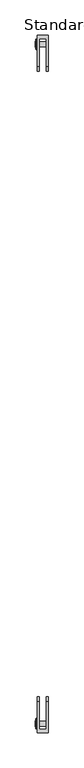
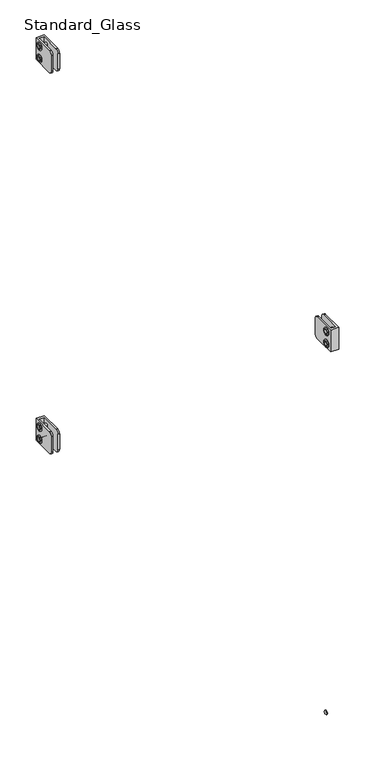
"""IFC4 building model written with IfcOpenShell, lengths in millimetres: railing geometry, Baluster-Excess-Fill-Straight-Panel-VIVA : Standard_Glass."""

from ifc_helpers import new_model, si_unit, point, frame, origin, place, context, project, spatial, polyline, circle_curve, ellipse_curve, trimmed, outline, extrude, source, transform, mapped, element, save
from ifc_brep_helpers import plane_surface, cylinder_surface, revolved_surface, advanced_brep


def standard_glass_e476765a(model_context):
    return source(origin(), model_context, "Body", "SolidModel", [
        extrude(outline(polyline([(17.3185433, 917.178125), (15.2715791, 913.6326791), (11.1776508, 913.6326791), (9.1306867, 917.178125), (11.1776508, 920.7235709), (15.2715791, 920.7235709), (17.3185433, 917.178125)])), frame((21.7024185, 0.0, 0.0), z_axis=(1.0, 0.0, 0.0), x_axis=(0.0, 1.0, 0.0)), (0.0, 0.0, 1.0), 1.4969696),
        advanced_brep(
        [(36.7665, 16.7700609, 917.178125), (36.7665, 9.6791691, 917.178125), (24.0665, 9.6791691, 917.178125), (24.0665, 16.7700609, 917.178125), (24.0665, 5.8168259, 917.178125), (24.0665, 20.6324041, 917.178125), (23.199388, 14.8806904, 917.178125), (23.199388, 11.5685396, 917.178125), (36.7665, 11.5685396, 917.178125), (36.7665, 14.8806904, 917.178125), (23.2316551, 20.6324041, 917.178125), (23.2316551, 5.8168259, 917.178125), (21.9503831, 7.0980979, 917.178125), (21.9503831, 19.351132, 917.178125), (21.9503831, 8.9260194, 917.178125), (21.9503831, 17.5232105, 917.178125), (23.199388, 8.9260194, 917.178125), (23.199388, 17.5232105, 917.178125)],
        [
            (0, 1, circle_curve(frame((36.7665, 13.224615, 917.178125), z_axis=(-1.0, 0.0, 0.0), x_axis=(0.0, -1.0, 0.0)), 3.5454459)),
            (1, 2),
            (2, 3, circle_curve(frame((24.0665, 13.224615, 917.178125), z_axis=(1.0, 0.0, 0.0), x_axis=(0.0, -1.0, 0.0)), 3.5454459)),
            (3, 0),
            (1, 0, circle_curve(frame((36.7665, 13.224615, 917.178125), z_axis=(-1.0, 0.0, 0.0), x_axis=(0.0, -1.0, 0.0)), 3.5454459)),
            (3, 2, circle_curve(frame((24.0665, 13.224615, 917.178125), z_axis=(1.0, 0.0, 0.0), x_axis=(0.0, -1.0, 0.0)), 3.5454459)),
            (2, 4),
            (4, 5, circle_curve(frame((24.0665, 13.224615, 917.178125), z_axis=(1.0, 0.0, 0.0), x_axis=(0.0, -1.0, 0.0)), 7.4077891)),
            (5, 3),
            (5, 4, circle_curve(frame((24.0665, 13.224615, 917.178125), z_axis=(1.0, 0.0, 0.0), x_axis=(0.0, -1.0, 0.0)), 7.4077891)),
            (6, 7, circle_curve(frame((23.199388, 13.224615, 917.178125), z_axis=(-1.0, 0.0, 0.0), x_axis=(0.0, -1.0, 0.0)), 1.6560754)),
            (7, 8),
            (8, 9, circle_curve(frame((36.7665, 13.224615, 917.178125), z_axis=(1.0, 0.0, 0.0), x_axis=(0.0, -1.0, 0.0)), 1.6560754)),
            (9, 6),
            (7, 6, circle_curve(frame((23.199388, 13.224615, 917.178125), z_axis=(-1.0, 0.0, 0.0), x_axis=(0.0, -1.0, 0.0)), 1.6560754)),
            (9, 8, circle_curve(frame((36.7665, 13.224615, 917.178125), z_axis=(1.0, 0.0, 0.0), x_axis=(0.0, -1.0, 0.0)), 1.6560754)),
            (10, 11, circle_curve(frame((23.2316551, 13.224615, 917.178125), z_axis=(-1.0, 0.0, 0.0), x_axis=(0.0, -1.0, 0.0)), 7.4077891)),
            (11, 12, circle_curve(frame((23.2316551, 7.0980979, 917.178125), z_axis=(0.0, 0.0, -1.0), x_axis=(0.0, -1.0, 0.0)), 1.281272)),
            (12, 13, circle_curve(frame((21.9503831, 13.224615, 917.178125), z_axis=(1.0, 0.0, 0.0), x_axis=(0.0, -1.0, 0.0)), 6.1265171)),
            (13, 10, circle_curve(frame((23.2316551, 19.351132, 917.178125), z_axis=(0.0, 0.0, -1.0), x_axis=(0.0, 1.0, 0.0)), 1.281272)),
            (11, 10, circle_curve(frame((23.2316551, 13.224615, 917.178125), z_axis=(-1.0, 0.0, 0.0), x_axis=(0.0, -1.0, 0.0)), 7.4077891)),
            (13, 12, circle_curve(frame((21.9503831, 13.224615, 917.178125), z_axis=(1.0, 0.0, 0.0), x_axis=(0.0, -1.0, 0.0)), 6.1265171)),
            (12, 14),
            (14, 15, circle_curve(frame((21.9503831, 13.224615, 917.178125), z_axis=(1.0, 0.0, 0.0), x_axis=(0.0, -1.0, 0.0)), 4.2985955)),
            (15, 13),
            (15, 14, circle_curve(frame((21.9503831, 13.224615, 917.178125), z_axis=(1.0, 0.0, 0.0), x_axis=(0.0, -1.0, 0.0)), 4.2985955)),
            (4, 11),
            (10, 5),
            (8, 1),
            (0, 9),
            (14, 16),
            (16, 17, circle_curve(frame((23.199388, 13.224615, 917.178125), z_axis=(1.0, 0.0, 0.0), x_axis=(0.0, -1.0, 0.0)), 4.2985955)),
            (17, 15),
            (17, 16, circle_curve(frame((23.199388, 13.224615, 917.178125), z_axis=(1.0, 0.0, 0.0), x_axis=(0.0, -1.0, 0.0)), 4.2985955)),
            (16, 7),
            (6, 17),
        ],
        [
            cylinder_surface(frame((27.5632331, 13.224615, 917.178125), z_axis=(1.0, 0.0, 0.0), x_axis=(0.0, -1.0, 0.0)), 3.5454459),
            plane_surface(frame((24.0665, 13.224615, 917.178125), z_axis=(1.0, 0.0, 0.0), x_axis=(0.0, -1.0, 0.0))),
            revolved_surface(polyline([(36.7665, 11.5685396, 917.178125), (23.199388, 11.5685396, 917.178125)]), (27.5632331, 13.224615, 917.178125), (1.0, 0.0, 0.0)),
            revolved_surface(trimmed(ellipse_curve(frame((23.2316551, 7.0980979, 917.178125), z_axis=(0.0, 0.0, 1.0), x_axis=(0.0, -1.0, 0.0)), 1.281272, 1.281272), [point((21.9503831, 7.0980979, 917.178125))], [point((23.2316551, 5.8168259, 917.178125))], True, "CARTESIAN"), (27.5632331, 13.224615, 917.178125), (1.0, 0.0, 0.0)),
            plane_surface(frame((21.9503831, 13.224615, 917.178125), z_axis=(-1.0, 0.0, 0.0), x_axis=(0.0, -1.0, 0.0))),
            cylinder_surface(frame((27.5632331, 13.224615, 917.178125), z_axis=(1.0, 0.0, 0.0), x_axis=(0.0, -1.0, 0.0)), 7.4077891),
            plane_surface(frame((36.7665, 13.224615, 917.178125), z_axis=(1.0, 0.0, 0.0), x_axis=(0.0, -1.0, 0.0))),
            revolved_surface(polyline([(23.199388, 8.926019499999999, 917.178125), (21.9503831, 8.926019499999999, 917.178125)]), (27.5632331, 13.224615, 917.178125), (1.0, 0.0, 0.0)),
            plane_surface(frame((23.199388, 13.224615, 917.178125), z_axis=(-1.0, 0.0, 0.0), x_axis=(0.0, -1.0, 0.0))),
        ],
        [
            (0, [[1, 2, 3, 4]]),
            (0, [[5, -4, 6, -2]]),
            (1, [[-3, 7, 8, 9]]),
            (1, [[-6, -9, 10, -7]]),
            (2, [[11, 12, 13, 14]]),
            (2, [[15, -14, 16, -12]]),
            (3, [[17, 18, 19, 20]]),
            (3, [[21, -20, 22, -18]]),
            (4, [[-19, 23, 24, 25]]),
            (4, [[-22, -25, 26, -23]]),
            (5, [[-8, 27, -17, 28]]),
            (5, [[-10, -28, -21, -27]]),
            (6, [[-13, 29, -1, 30]]),
            (6, [[-16, -30, -5, -29]]),
            (7, [[-24, 31, 32, 33]]),
            (7, [[-26, -33, 34, -31]]),
            (8, [[-32, 35, -11, 36]]),
            (8, [[-34, -36, -15, -35]]),
        ],
    ),
        advanced_brep(
        [(36.7665, 16.7700609, 892.571875), (36.7665, 9.6791691, 892.571875), (24.0665, 9.6791691, 892.571875), (24.0665, 16.7700609, 892.571875), (24.0665, 5.8168259, 892.571875), (24.0665, 20.6324041, 892.571875), (23.199388, 14.8806904, 892.571875), (23.199388, 11.5685396, 892.571875), (36.7665, 11.5685396, 892.571875), (36.7665, 14.8806904, 892.571875), (23.2316551, 20.6324041, 892.571875), (23.2316551, 5.8168259, 892.571875), (21.9503831, 7.0980979, 892.571875), (21.9503831, 19.351132, 892.571875), (21.9503831, 8.9260194, 892.571875), (21.9503831, 17.5232105, 892.571875), (23.199388, 8.9260194, 892.571875), (23.199388, 17.5232105, 892.571875)],
        [
            (0, 1, circle_curve(frame((36.7665, 13.224615, 892.571875), z_axis=(-1.0, 0.0, 0.0), x_axis=(0.0, -1.0, 0.0)), 3.5454459)),
            (1, 2),
            (2, 3, circle_curve(frame((24.0665, 13.224615, 892.571875), z_axis=(1.0, 0.0, 0.0), x_axis=(0.0, -1.0, 0.0)), 3.5454459)),
            (3, 0),
            (1, 0, circle_curve(frame((36.7665, 13.224615, 892.571875), z_axis=(-1.0, 0.0, 0.0), x_axis=(0.0, -1.0, 0.0)), 3.5454459)),
            (3, 2, circle_curve(frame((24.0665, 13.224615, 892.571875), z_axis=(1.0, 0.0, 0.0), x_axis=(0.0, -1.0, 0.0)), 3.5454459)),
            (2, 4),
            (4, 5, circle_curve(frame((24.0665, 13.224615, 892.571875), z_axis=(1.0, 0.0, 0.0), x_axis=(0.0, -1.0, 0.0)), 7.4077891)),
            (5, 3),
            (5, 4, circle_curve(frame((24.0665, 13.224615, 892.571875), z_axis=(1.0, 0.0, 0.0), x_axis=(0.0, -1.0, 0.0)), 7.4077891)),
            (6, 7, circle_curve(frame((23.199388, 13.224615, 892.571875), z_axis=(-1.0, 0.0, 0.0), x_axis=(0.0, -1.0, 0.0)), 1.6560754)),
            (7, 8),
            (8, 9, circle_curve(frame((36.7665, 13.224615, 892.571875), z_axis=(1.0, 0.0, 0.0), x_axis=(0.0, -1.0, 0.0)), 1.6560754)),
            (9, 6),
            (7, 6, circle_curve(frame((23.199388, 13.224615, 892.571875), z_axis=(-1.0, 0.0, 0.0), x_axis=(0.0, -1.0, 0.0)), 1.6560754)),
            (9, 8, circle_curve(frame((36.7665, 13.224615, 892.571875), z_axis=(1.0, 0.0, 0.0), x_axis=(0.0, -1.0, 0.0)), 1.6560754)),
            (10, 11, circle_curve(frame((23.2316551, 13.224615, 892.571875), z_axis=(-1.0, 0.0, 0.0), x_axis=(0.0, -1.0, 0.0)), 7.4077891)),
            (11, 12, circle_curve(frame((23.2316551, 7.0980979, 892.571875), z_axis=(0.0, 0.0, -1.0), x_axis=(0.0, -1.0, 0.0)), 1.281272)),
            (12, 13, circle_curve(frame((21.9503831, 13.224615, 892.571875), z_axis=(1.0, 0.0, 0.0), x_axis=(0.0, -1.0, 0.0)), 6.1265171)),
            (13, 10, circle_curve(frame((23.2316551, 19.351132, 892.571875), z_axis=(0.0, 0.0, -1.0), x_axis=(0.0, 1.0, 0.0)), 1.281272)),
            (11, 10, circle_curve(frame((23.2316551, 13.224615, 892.571875), z_axis=(-1.0, 0.0, 0.0), x_axis=(0.0, -1.0, 0.0)), 7.4077891)),
            (13, 12, circle_curve(frame((21.9503831, 13.224615, 892.571875), z_axis=(1.0, 0.0, 0.0), x_axis=(0.0, -1.0, 0.0)), 6.1265171)),
            (12, 14),
            (14, 15, circle_curve(frame((21.9503831, 13.224615, 892.571875), z_axis=(1.0, 0.0, 0.0), x_axis=(0.0, -1.0, 0.0)), 4.2985955)),
            (15, 13),
            (15, 14, circle_curve(frame((21.9503831, 13.224615, 892.571875), z_axis=(1.0, 0.0, 0.0), x_axis=(0.0, -1.0, 0.0)), 4.2985955)),
            (8, 1),
            (0, 9),
            (4, 11),
            (10, 5),
            (14, 16),
            (16, 17, circle_curve(frame((23.199388, 13.224615, 892.571875), z_axis=(1.0, 0.0, 0.0), x_axis=(0.0, -1.0, 0.0)), 4.2985955)),
            (17, 15),
            (17, 16, circle_curve(frame((23.199388, 13.224615, 892.571875), z_axis=(1.0, 0.0, 0.0), x_axis=(0.0, -1.0, 0.0)), 4.2985955)),
            (16, 7),
            (6, 17),
        ],
        [
            cylinder_surface(frame((27.5632331, 13.224615, 892.571875), z_axis=(1.0, 0.0, 0.0), x_axis=(0.0, -1.0, 0.0)), 3.5454459),
            plane_surface(frame((24.0665, 13.224615, 892.571875), z_axis=(1.0, 0.0, 0.0), x_axis=(0.0, -1.0, 0.0))),
            revolved_surface(polyline([(36.7665, 11.5685396, 892.571875), (23.199388, 11.5685396, 892.571875)]), (27.5632331, 13.224615, 892.571875), (1.0, 0.0, 0.0)),
            revolved_surface(trimmed(ellipse_curve(frame((23.2316551, 7.0980979, 892.571875), z_axis=(0.0, 0.0, 1.0), x_axis=(0.0, -1.0, 0.0)), 1.281272, 1.281272), [point((21.9503831, 7.0980979, 892.571875))], [point((23.2316551, 5.8168259, 892.571875))], True, "CARTESIAN"), (27.5632331, 13.224615, 892.571875), (1.0, 0.0, 0.0)),
            plane_surface(frame((21.9503831, 13.224615, 892.571875), z_axis=(-1.0, 0.0, 0.0), x_axis=(0.0, -1.0, 0.0))),
            plane_surface(frame((36.7665, 13.224615, 892.571875), z_axis=(1.0, 0.0, 0.0), x_axis=(0.0, -1.0, 0.0))),
            cylinder_surface(frame((27.5632331, 13.224615, 892.571875), z_axis=(1.0, 0.0, 0.0), x_axis=(0.0, -1.0, 0.0)), 7.4077891),
            revolved_surface(polyline([(23.199388, 8.926019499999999, 892.571875), (21.9503831, 8.926019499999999, 892.571875)]), (27.5632331, 13.224615, 892.571875), (1.0, 0.0, 0.0)),
            plane_surface(frame((23.199388, 13.224615, 892.571875), z_axis=(-1.0, 0.0, 0.0), x_axis=(0.0, -1.0, 0.0))),
        ],
        [
            (0, [[1, 2, 3, 4]]),
            (0, [[5, -4, 6, -2]]),
            (1, [[-3, 7, 8, 9]]),
            (1, [[-6, -9, 10, -7]]),
            (2, [[11, 12, 13, 14]]),
            (2, [[15, -14, 16, -12]]),
            (3, [[17, 18, 19, 20]]),
            (3, [[21, -20, 22, -18]]),
            (4, [[-19, 23, 24, 25]]),
            (4, [[-22, -25, 26, -23]]),
            (5, [[-13, 27, -1, 28]]),
            (5, [[-16, -28, -5, -27]]),
            (6, [[-8, 29, -17, 30]]),
            (6, [[-10, -30, -21, -29]]),
            (7, [[-24, 31, 32, 33]]),
            (7, [[-26, -33, 34, -31]]),
            (8, [[-32, 35, -11, 36]]),
            (8, [[-34, -36, -15, -35]]),
        ],
    ),
        extrude(outline(polyline([(17.3185433, 892.571875), (15.2715791, 889.0264291), (11.1776508, 889.0264291), (9.1306867, 892.571875), (11.1776508, 896.1173209), (15.2715791, 896.1173209), (17.3185433, 892.571875)])), frame((21.7024185, 0.0, 0.0), z_axis=(1.0, 0.0, 0.0), x_axis=(0.0, 1.0, 0.0)), (0.0, 0.0, 1.0), 1.4969696),
        advanced_brep(
        [(24.0665, 25.8579597, 927.1), (24.0665, 25.8579597, 882.65), (24.0665, -18.5920403, 882.65), (24.0665, -24.9420403, 889.0), (24.0665, -24.9420403, 920.75), (24.0665, -18.5920403, 927.1), (39.9415, 25.8579597, 927.1), (39.9415, -18.5920403, 927.1), (39.9415, -24.9420403, 920.75), (39.9415, -24.9420403, 889.0), (39.9415, -18.5920403, 882.65), (39.9415, 25.8579597, 882.65), (36.7665, -18.5920403, 882.65), (36.7665, 21.1398793, 882.65), (27.2415, 21.1398793, 882.65), (27.2415, -18.5920403, 882.65), (36.7665, 21.1398793, 927.1), (27.2415, 21.1398793, 927.1), (27.2415, -18.5920403, 927.1), (27.2415, -24.9420403, 920.75), (27.2415, -24.9420403, 889.0), (36.7665, -24.9420403, 889.0), (36.7665, -24.9420403, 920.75), (36.7665, -18.5920403, 927.1)],
        [
            (0, 1),
            (1, 2),
            (2, 3, circle_curve(frame((24.0665, -18.5920403, 889.0), z_axis=(-1.0, 0.0, 0.0), x_axis=(0.0, -1.0, 0.0)), 6.35)),
            (3, 4),
            (4, 5, circle_curve(frame((24.0665, -18.5920403, 920.75), z_axis=(-1.0, 0.0, 0.0), x_axis=(0.0, -1.0, 0.0)), 6.35)),
            (5, 0),
            (6, 7),
            (7, 8, circle_curve(frame((39.9415, -18.5920403, 920.75), z_axis=(1.0, 0.0, 0.0), x_axis=(0.0, -1.0, 0.0)), 6.35)),
            (8, 9),
            (9, 10, circle_curve(frame((39.9415, -18.5920403, 889.0), z_axis=(1.0, 0.0, 0.0), x_axis=(0.0, -1.0, 0.0)), 6.35)),
            (10, 11),
            (11, 6),
            (0, 6),
            (11, 1),
            (10, 12),
            (12, 13),
            (13, 14),
            (14, 15),
            (15, 2),
            (13, 16),
            (16, 17),
            (17, 14),
            (17, 18),
            (18, 19, circle_curve(frame((27.2415, -18.5920403, 920.75), z_axis=(1.0, 0.0, 0.0), x_axis=(0.0, -1.0, 0.0)), 6.35)),
            (19, 20),
            (20, 15, circle_curve(frame((27.2415, -18.5920403, 889.0), z_axis=(1.0, 0.0, 0.0), x_axis=(0.0, -1.0, 0.0)), 6.35)),
            (12, 21, circle_curve(frame((36.7665, -18.5920403, 889.0), z_axis=(-1.0, 0.0, 0.0), x_axis=(0.0, -1.0, 0.0)), 6.35)),
            (21, 22),
            (22, 23, circle_curve(frame((36.7665, -18.5920403, 920.75), z_axis=(-1.0, 0.0, 0.0), x_axis=(0.0, -1.0, 0.0)), 6.35)),
            (23, 16),
            (20, 3),
            (9, 21),
            (19, 4),
            (8, 22),
            (18, 5),
            (7, 23),
        ],
        [
            plane_surface(frame((24.0665, 25.8579597, 882.65), z_axis=(-1.0, 0.0, 0.0), x_axis=(0.0, 0.0, -1.0))),
            plane_surface(frame((39.9415, 25.8579597, 882.65), z_axis=(1.0, 0.0, 0.0), x_axis=(0.0, 0.0, 1.0))),
            plane_surface(frame((24.0665, 25.8579597, 927.1), z_axis=(0.0, 1.0, 0.0), x_axis=(1.0, 0.0, 0.0))),
            plane_surface(frame((24.0665, 25.8579597, 882.65), z_axis=(0.0, 0.0, -1.0), x_axis=(1.0, 0.0, 0.0))),
            plane_surface(frame((36.7665, 21.1398793, 939.8), z_axis=(0.0, -1.0, 0.0), x_axis=(0.0, 0.0, -1.0))),
            plane_surface(frame((27.2415, 21.1398793, 939.8), z_axis=(1.0, 0.0, 0.0), x_axis=(0.0, 0.0, -1.0))),
            plane_surface(frame((36.7665, -37.6420403, 939.8), z_axis=(-1.0, 0.0, 0.0), x_axis=(0.0, 0.0, -1.0))),
            cylinder_surface(frame((39.9415, -18.5920403, 889.0), z_axis=(-1.0, 0.0, 0.0), x_axis=(0.0, -1.0, 0.0)), 6.35),
            plane_surface(frame((24.0665, -24.9420403, 889.0), z_axis=(0.0, -1.0, 0.0), x_axis=(1.0, 0.0, 0.0))),
            cylinder_surface(frame((39.9415, -18.5920403, 920.75), z_axis=(-1.0, 0.0, 0.0), x_axis=(0.0, -1.0, 0.0)), 6.35),
            plane_surface(frame((24.0665, -18.5920403, 927.1), z_axis=(0.0, 0.0, 1.0), x_axis=(1.0, 0.0, 0.0))),
        ],
        [
            (0, [[1, 2, 3, 4, 5, 6]]),
            (1, [[7, 8, 9, 10, 11, 12]]),
            (2, [[-1, 13, -12, 14]]),
            (3, [[-2, -14, -11, 15, 16, 17, 18, 19]]),
            (4, [[20, 21, 22, -17]]),
            (5, [[-22, 23, 24, 25, 26, -18]]),
            (6, [[-20, -16, 27, 28, 29, 30]]),
            (7, [[-3, -19, -26, 31]]),
            (7, [[-10, 32, -27, -15]]),
            (8, [[-4, -31, -25, 33]]),
            (8, [[-9, 34, -28, -32]]),
            (9, [[-5, -33, -24, 35]]),
            (9, [[-8, 36, -29, -34]]),
            (10, [[-6, -35, -23, -21, -30, -36, -7, -13]]),
        ],
    ),
        extrude(outline(polyline([(17.3185433, 138.7358896), (15.2715791, 135.1904437), (11.1776508, 135.1904437), (9.1306867, 138.7358896), (11.1776508, 142.2813355), (15.2715791, 142.2813355), (17.3185433, 138.7358896)])), frame((21.7024185, 0.0, 0.0), z_axis=(1.0, 0.0, 0.0), x_axis=(0.0, 1.0, 0.0)), (0.0, 0.0, 1.0), 1.4969696),
        advanced_brep(
        [(36.7665, 16.7700609, 138.7358896), (36.7665, 9.6791691, 138.7358896), (24.0665, 9.6791691, 138.7358896), (24.0665, 16.7700609, 138.7358896), (24.0665, 5.8168259, 138.7358896), (24.0665, 20.6324041, 138.7358896), (23.199388, 14.8806904, 138.7358896), (23.199388, 11.5685396, 138.7358896), (36.7665, 11.5685396, 138.7358896), (36.7665, 14.8806904, 138.7358896), (23.2316551, 20.6324041, 138.7358896), (23.2316551, 5.8168259, 138.7358896), (21.9503831, 7.0980979, 138.7358896), (21.9503831, 19.351132, 138.7358896), (21.9503831, 8.9260194, 138.7358896), (21.9503831, 17.5232105, 138.7358896), (23.199388, 8.9260194, 138.7358896), (23.199388, 17.5232105, 138.7358896)],
        [
            (0, 1, circle_curve(frame((36.7665, 13.224615, 138.7358896), z_axis=(-1.0, 0.0, 0.0), x_axis=(0.0, -1.0, 0.0)), 3.5454459)),
            (1, 2),
            (2, 3, circle_curve(frame((24.0665, 13.224615, 138.7358896), z_axis=(1.0, 0.0, 0.0), x_axis=(0.0, -1.0, 0.0)), 3.5454459)),
            (3, 0),
            (1, 0, circle_curve(frame((36.7665, 13.224615, 138.7358896), z_axis=(-1.0, 0.0, 0.0), x_axis=(0.0, -1.0, 0.0)), 3.5454459)),
            (3, 2, circle_curve(frame((24.0665, 13.224615, 138.7358896), z_axis=(1.0, 0.0, 0.0), x_axis=(0.0, -1.0, 0.0)), 3.5454459)),
            (2, 4),
            (4, 5, circle_curve(frame((24.0665, 13.224615, 138.7358896), z_axis=(1.0, 0.0, 0.0), x_axis=(0.0, -1.0, 0.0)), 7.4077891)),
            (5, 3),
            (5, 4, circle_curve(frame((24.0665, 13.224615, 138.7358896), z_axis=(1.0, 0.0, 0.0), x_axis=(0.0, -1.0, 0.0)), 7.4077891)),
            (6, 7, circle_curve(frame((23.199388, 13.224615, 138.7358896), z_axis=(-1.0, 0.0, 0.0), x_axis=(0.0, -1.0, 0.0)), 1.6560754)),
            (7, 8),
            (8, 9, circle_curve(frame((36.7665, 13.224615, 138.7358896), z_axis=(1.0, 0.0, 0.0), x_axis=(0.0, -1.0, 0.0)), 1.6560754)),
            (9, 6),
            (7, 6, circle_curve(frame((23.199388, 13.224615, 138.7358896), z_axis=(-1.0, 0.0, 0.0), x_axis=(0.0, -1.0, 0.0)), 1.6560754)),
            (9, 8, circle_curve(frame((36.7665, 13.224615, 138.7358896), z_axis=(1.0, 0.0, 0.0), x_axis=(0.0, -1.0, 0.0)), 1.6560754)),
            (10, 11, circle_curve(frame((23.2316551, 13.224615, 138.7358896), z_axis=(-1.0, 0.0, 0.0), x_axis=(0.0, -1.0, 0.0)), 7.4077891)),
            (11, 12, circle_curve(frame((23.2316551, 7.0980979, 138.7358896), z_axis=(0.0, 0.0, -1.0), x_axis=(0.0, -1.0, 0.0)), 1.281272)),
            (12, 13, circle_curve(frame((21.9503831, 13.224615, 138.7358896), z_axis=(1.0, 0.0, 0.0), x_axis=(0.0, -1.0, 0.0)), 6.1265171)),
            (13, 10, circle_curve(frame((23.2316551, 19.351132, 138.7358896), z_axis=(0.0, 0.0, -1.0), x_axis=(0.0, 1.0, 0.0)), 1.281272)),
            (11, 10, circle_curve(frame((23.2316551, 13.224615, 138.7358896), z_axis=(-1.0, 0.0, 0.0), x_axis=(0.0, -1.0, 0.0)), 7.4077891)),
            (13, 12, circle_curve(frame((21.9503831, 13.224615, 138.7358896), z_axis=(1.0, 0.0, 0.0), x_axis=(0.0, -1.0, 0.0)), 6.1265171)),
            (12, 14),
            (14, 15, circle_curve(frame((21.9503831, 13.224615, 138.7358896), z_axis=(1.0, 0.0, 0.0), x_axis=(0.0, -1.0, 0.0)), 4.2985955)),
            (15, 13),
            (15, 14, circle_curve(frame((21.9503831, 13.224615, 138.7358896), z_axis=(1.0, 0.0, 0.0), x_axis=(0.0, -1.0, 0.0)), 4.2985955)),
            (4, 11),
            (10, 5),
            (8, 1),
            (0, 9),
            (14, 16),
            (16, 17, circle_curve(frame((23.199388, 13.224615, 138.7358896), z_axis=(1.0, 0.0, 0.0), x_axis=(0.0, -1.0, 0.0)), 4.2985955)),
            (17, 15),
            (17, 16, circle_curve(frame((23.199388, 13.224615, 138.7358896), z_axis=(1.0, 0.0, 0.0), x_axis=(0.0, -1.0, 0.0)), 4.2985955)),
            (16, 7),
            (6, 17),
        ],
        [
            cylinder_surface(frame((27.5632331, 13.224615, 138.7358896), z_axis=(1.0, 0.0, 0.0), x_axis=(0.0, -1.0, 0.0)), 3.5454459),
            plane_surface(frame((24.0665, 13.224615, 138.7358896), z_axis=(1.0, 0.0, 0.0), x_axis=(0.0, -1.0, 0.0))),
            revolved_surface(polyline([(36.7665, 11.5685396, 138.7358896), (23.199388, 11.5685396, 138.7358896)]), (27.5632331, 13.224615, 138.7358896), (1.0, 0.0, 0.0)),
            revolved_surface(trimmed(ellipse_curve(frame((23.2316551, 7.0980979, 138.7358896), z_axis=(0.0, 0.0, 1.0), x_axis=(0.0, -1.0, 0.0)), 1.281272, 1.281272), [point((21.9503831, 7.0980979, 138.7358896))], [point((23.2316551, 5.8168259, 138.7358896))], True, "CARTESIAN"), (27.5632331, 13.224615, 138.7358896), (1.0, 0.0, 0.0)),
            plane_surface(frame((21.9503831, 13.224615, 138.7358896), z_axis=(-1.0, 0.0, 0.0), x_axis=(0.0, -1.0, 0.0))),
            cylinder_surface(frame((27.5632331, 13.224615, 138.7358896), z_axis=(1.0, 0.0, 0.0), x_axis=(0.0, -1.0, 0.0)), 7.4077891),
            plane_surface(frame((36.7665, 13.224615, 138.7358896), z_axis=(1.0, 0.0, 0.0), x_axis=(0.0, -1.0, 0.0))),
            revolved_surface(polyline([(23.199388, 8.926019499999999, 138.7358896), (21.9503831, 8.926019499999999, 138.7358896)]), (27.5632331, 13.224615, 138.7358896), (1.0, 0.0, 0.0)),
            plane_surface(frame((23.199388, 13.224615, 138.7358896), z_axis=(-1.0, 0.0, 0.0), x_axis=(0.0, -1.0, 0.0))),
        ],
        [
            (0, [[1, 2, 3, 4]]),
            (0, [[5, -4, 6, -2]]),
            (1, [[-3, 7, 8, 9]]),
            (1, [[-6, -9, 10, -7]]),
            (2, [[11, 12, 13, 14]]),
            (2, [[15, -14, 16, -12]]),
            (3, [[17, 18, 19, 20]]),
            (3, [[21, -20, 22, -18]]),
            (4, [[-19, 23, 24, 25]]),
            (4, [[-22, -25, 26, -23]]),
            (5, [[-8, 27, -17, 28]]),
            (5, [[-10, -28, -21, -27]]),
            (6, [[-13, 29, -1, 30]]),
            (6, [[-16, -30, -5, -29]]),
            (7, [[-24, 31, 32, 33]]),
            (7, [[-26, -33, 34, -31]]),
            (8, [[-32, 35, -11, 36]]),
            (8, [[-34, -36, -15, -35]]),
        ],
    ),
        advanced_brep(
        [(36.7665, 16.7700609, 114.1296396), (36.7665, 9.6791691, 114.1296396), (24.0665, 9.6791691, 114.1296396), (24.0665, 16.7700609, 114.1296396), (24.0665, 5.8168259, 114.1296396), (24.0665, 20.6324041, 114.1296396), (23.199388, 14.8806904, 114.1296396), (23.199388, 11.5685396, 114.1296396), (36.7665, 11.5685396, 114.1296396), (36.7665, 14.8806904, 114.1296396), (23.2316551, 20.6324041, 114.1296396), (23.2316551, 5.8168259, 114.1296396), (21.9503831, 7.0980979, 114.1296396), (21.9503831, 19.351132, 114.1296396), (21.9503831, 8.9260194, 114.1296396), (21.9503831, 17.5232105, 114.1296396), (23.199388, 8.9260194, 114.1296396), (23.199388, 17.5232105, 114.1296396)],
        [
            (0, 1, circle_curve(frame((36.7665, 13.224615, 114.1296396), z_axis=(-1.0, 0.0, 0.0), x_axis=(0.0, -1.0, 0.0)), 3.5454459)),
            (1, 2),
            (2, 3, circle_curve(frame((24.0665, 13.224615, 114.1296396), z_axis=(1.0, 0.0, 0.0), x_axis=(0.0, -1.0, 0.0)), 3.5454459)),
            (3, 0),
            (1, 0, circle_curve(frame((36.7665, 13.224615, 114.1296396), z_axis=(-1.0, 0.0, 0.0), x_axis=(0.0, -1.0, 0.0)), 3.5454459)),
            (3, 2, circle_curve(frame((24.0665, 13.224615, 114.1296396), z_axis=(1.0, 0.0, 0.0), x_axis=(0.0, -1.0, 0.0)), 3.5454459)),
            (2, 4),
            (4, 5, circle_curve(frame((24.0665, 13.224615, 114.1296396), z_axis=(1.0, 0.0, 0.0), x_axis=(0.0, -1.0, 0.0)), 7.4077891)),
            (5, 3),
            (5, 4, circle_curve(frame((24.0665, 13.224615, 114.1296396), z_axis=(1.0, 0.0, 0.0), x_axis=(0.0, -1.0, 0.0)), 7.4077891)),
            (6, 7, circle_curve(frame((23.199388, 13.224615, 114.1296396), z_axis=(-1.0, 0.0, 0.0), x_axis=(0.0, -1.0, 0.0)), 1.6560754)),
            (7, 8),
            (8, 9, circle_curve(frame((36.7665, 13.224615, 114.1296396), z_axis=(1.0, 0.0, 0.0), x_axis=(0.0, -1.0, 0.0)), 1.6560754)),
            (9, 6),
            (7, 6, circle_curve(frame((23.199388, 13.224615, 114.1296396), z_axis=(-1.0, 0.0, 0.0), x_axis=(0.0, -1.0, 0.0)), 1.6560754)),
            (9, 8, circle_curve(frame((36.7665, 13.224615, 114.1296396), z_axis=(1.0, 0.0, 0.0), x_axis=(0.0, -1.0, 0.0)), 1.6560754)),
            (10, 11, circle_curve(frame((23.2316551, 13.224615, 114.1296396), z_axis=(-1.0, 0.0, 0.0), x_axis=(0.0, -1.0, 0.0)), 7.4077891)),
            (11, 12, circle_curve(frame((23.2316551, 7.0980979, 114.1296396), z_axis=(0.0, 0.0, -1.0), x_axis=(0.0, -1.0, 0.0)), 1.281272)),
            (12, 13, circle_curve(frame((21.9503831, 13.224615, 114.1296396), z_axis=(1.0, 0.0, 0.0), x_axis=(0.0, -1.0, 0.0)), 6.1265171)),
            (13, 10, circle_curve(frame((23.2316551, 19.351132, 114.1296396), z_axis=(0.0, 0.0, -1.0), x_axis=(0.0, 1.0, 0.0)), 1.281272)),
            (11, 10, circle_curve(frame((23.2316551, 13.224615, 114.1296396), z_axis=(-1.0, 0.0, 0.0), x_axis=(0.0, -1.0, 0.0)), 7.4077891)),
            (13, 12, circle_curve(frame((21.9503831, 13.224615, 114.1296396), z_axis=(1.0, 0.0, 0.0), x_axis=(0.0, -1.0, 0.0)), 6.1265171)),
            (12, 14),
            (14, 15, circle_curve(frame((21.9503831, 13.224615, 114.1296396), z_axis=(1.0, 0.0, 0.0), x_axis=(0.0, -1.0, 0.0)), 4.2985955)),
            (15, 13),
            (15, 14, circle_curve(frame((21.9503831, 13.224615, 114.1296396), z_axis=(1.0, 0.0, 0.0), x_axis=(0.0, -1.0, 0.0)), 4.2985955)),
            (8, 1),
            (0, 9),
            (4, 11),
            (10, 5),
            (14, 16),
            (16, 17, circle_curve(frame((23.199388, 13.224615, 114.1296396), z_axis=(1.0, 0.0, 0.0), x_axis=(0.0, -1.0, 0.0)), 4.2985955)),
            (17, 15),
            (17, 16, circle_curve(frame((23.199388, 13.224615, 114.1296396), z_axis=(1.0, 0.0, 0.0), x_axis=(0.0, -1.0, 0.0)), 4.2985955)),
            (16, 7),
            (6, 17),
        ],
        [
            cylinder_surface(frame((27.5632331, 13.224615, 114.1296396), z_axis=(1.0, 0.0, 0.0), x_axis=(0.0, -1.0, 0.0)), 3.5454459),
            plane_surface(frame((24.0665, 13.224615, 114.1296396), z_axis=(1.0, 0.0, 0.0), x_axis=(0.0, -1.0, 0.0))),
            revolved_surface(polyline([(36.7665, 11.5685396, 114.1296396), (23.199388, 11.5685396, 114.1296396)]), (27.5632331, 13.224615, 114.1296396), (1.0, 0.0, 0.0)),
            revolved_surface(trimmed(ellipse_curve(frame((23.2316551, 7.0980979, 114.1296396), z_axis=(0.0, 0.0, 1.0), x_axis=(0.0, -1.0, 0.0)), 1.281272, 1.281272), [point((21.9503831, 7.0980979, 114.1296396))], [point((23.2316551, 5.8168259, 114.1296396))], True, "CARTESIAN"), (27.5632331, 13.224615, 114.1296396), (1.0, 0.0, 0.0)),
            plane_surface(frame((21.9503831, 13.224615, 114.1296396), z_axis=(-1.0, 0.0, 0.0), x_axis=(0.0, -1.0, 0.0))),
            plane_surface(frame((36.7665, 13.224615, 114.1296396), z_axis=(1.0, 0.0, 0.0), x_axis=(0.0, -1.0, 0.0))),
            cylinder_surface(frame((27.5632331, 13.224615, 114.1296396), z_axis=(1.0, 0.0, 0.0), x_axis=(0.0, -1.0, 0.0)), 7.4077891),
            revolved_surface(polyline([(23.199388, 8.926019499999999, 114.1296396), (21.9503831, 8.926019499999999, 114.1296396)]), (27.5632331, 13.224615, 114.1296396), (1.0, 0.0, 0.0)),
            plane_surface(frame((23.199388, 13.224615, 114.1296396), z_axis=(-1.0, 0.0, 0.0), x_axis=(0.0, -1.0, 0.0))),
        ],
        [
            (0, [[1, 2, 3, 4]]),
            (0, [[5, -4, 6, -2]]),
            (1, [[-3, 7, 8, 9]]),
            (1, [[-6, -9, 10, -7]]),
            (2, [[11, 12, 13, 14]]),
            (2, [[15, -14, 16, -12]]),
            (3, [[17, 18, 19, 20]]),
            (3, [[21, -20, 22, -18]]),
            (4, [[-19, 23, 24, 25]]),
            (4, [[-22, -25, 26, -23]]),
            (5, [[-13, 27, -1, 28]]),
            (5, [[-16, -28, -5, -27]]),
            (6, [[-8, 29, -17, 30]]),
            (6, [[-10, -30, -21, -29]]),
            (7, [[-24, 31, 32, 33]]),
            (7, [[-26, -33, 34, -31]]),
            (8, [[-32, 35, -11, 36]]),
            (8, [[-34, -36, -15, -35]]),
        ],
    ),
        extrude(outline(polyline([(17.3185433, 114.1296396), (15.2715791, 110.5841937), (11.1776508, 110.5841937), (9.1306867, 114.1296396), (11.1776508, 117.6750855), (15.2715791, 117.6750855), (17.3185433, 114.1296396)])), frame((21.7024185, 0.0, 0.0), z_axis=(1.0, 0.0, 0.0), x_axis=(0.0, 1.0, 0.0)), (0.0, 0.0, 1.0), 1.4969696),
        advanced_brep(
        [(24.0665, 25.8579597, 148.6577646), (24.0665, 25.8579597, 104.2077646), (24.0665, -18.5920403, 104.2077646), (24.0665, -24.9420403, 110.5577646), (24.0665, -24.9420403, 142.3077646), (24.0665, -18.5920403, 148.6577646), (39.9415, 25.8579597, 148.6577646), (39.9415, -18.5920403, 148.6577646), (39.9415, -24.9420403, 142.3077646), (39.9415, -24.9420403, 110.5577646), (39.9415, -18.5920403, 104.2077646), (39.9415, 25.8579597, 104.2077646), (36.7665, -18.5920403, 104.2077646), (36.7665, 21.1398793, 104.2077646), (27.2415, 21.1398793, 104.2077646), (27.2415, -18.5920403, 104.2077646), (36.7665, 21.1398793, 148.6577646), (27.2415, 21.1398793, 148.6577646), (27.2415, -18.5920403, 148.6577646), (27.2415, -24.9420403, 142.3077646), (27.2415, -24.9420403, 110.5577646), (36.7665, -24.9420403, 110.5577646), (36.7665, -24.9420403, 142.3077646), (36.7665, -18.5920403, 148.6577646)],
        [
            (0, 1),
            (1, 2),
            (2, 3, circle_curve(frame((24.0665, -18.5920403, 110.5577646), z_axis=(-1.0, 0.0, 0.0), x_axis=(0.0, -1.0, 0.0)), 6.35)),
            (3, 4),
            (4, 5, circle_curve(frame((24.0665, -18.5920403, 142.3077646), z_axis=(-1.0, 0.0, 0.0), x_axis=(0.0, -1.0, 0.0)), 6.35)),
            (5, 0),
            (6, 7),
            (7, 8, circle_curve(frame((39.9415, -18.5920403, 142.3077646), z_axis=(1.0, 0.0, 0.0), x_axis=(0.0, -1.0, 0.0)), 6.35)),
            (8, 9),
            (9, 10, circle_curve(frame((39.9415, -18.5920403, 110.5577646), z_axis=(1.0, 0.0, 0.0), x_axis=(0.0, -1.0, 0.0)), 6.35)),
            (10, 11),
            (11, 6),
            (0, 6),
            (11, 1),
            (10, 12),
            (12, 13),
            (13, 14),
            (14, 15),
            (15, 2),
            (13, 16),
            (16, 17),
            (17, 14),
            (17, 18),
            (18, 19, circle_curve(frame((27.2415, -18.5920403, 142.3077646), z_axis=(1.0, 0.0, 0.0), x_axis=(0.0, -1.0, 0.0)), 6.35)),
            (19, 20),
            (20, 15, circle_curve(frame((27.2415, -18.5920403, 110.5577646), z_axis=(1.0, 0.0, 0.0), x_axis=(0.0, -1.0, 0.0)), 6.35)),
            (12, 21, circle_curve(frame((36.7665, -18.5920403, 110.5577646), z_axis=(-1.0, 0.0, 0.0), x_axis=(0.0, -1.0, 0.0)), 6.35)),
            (21, 22),
            (22, 23, circle_curve(frame((36.7665, -18.5920403, 142.3077646), z_axis=(-1.0, 0.0, 0.0), x_axis=(0.0, -1.0, 0.0)), 6.35)),
            (23, 16),
            (20, 3),
            (9, 21),
            (19, 4),
            (8, 22),
            (18, 5),
            (7, 23),
        ],
        [
            plane_surface(frame((24.0665, 25.8579597, 104.2077646), z_axis=(-1.0, 0.0, 0.0), x_axis=(0.0, 0.0, -1.0))),
            plane_surface(frame((39.9415, 25.8579597, 104.2077646), z_axis=(1.0, 0.0, 0.0), x_axis=(0.0, 0.0, 1.0))),
            plane_surface(frame((24.0665, 25.8579597, 148.6577646), z_axis=(0.0, 1.0, 0.0), x_axis=(1.0, 0.0, 0.0))),
            plane_surface(frame((24.0665, 25.8579597, 104.2077646), z_axis=(0.0, 0.0, -1.0), x_axis=(1.0, 0.0, 0.0))),
            plane_surface(frame((36.7665, 21.1398793, 161.3577646), z_axis=(0.0, -1.0, 0.0), x_axis=(0.0, 0.0, -1.0))),
            plane_surface(frame((27.2415, 21.1398793, 161.3577646), z_axis=(1.0, 0.0, 0.0), x_axis=(0.0, 0.0, -1.0))),
            plane_surface(frame((36.7665, -37.6420403, 161.3577646), z_axis=(-1.0, 0.0, 0.0), x_axis=(0.0, 0.0, -1.0))),
            cylinder_surface(frame((39.9415, -18.5920403, 110.5577646), z_axis=(-1.0, 0.0, 0.0), x_axis=(0.0, -1.0, 0.0)), 6.35),
            plane_surface(frame((24.0665, -24.9420403, 110.5577646), z_axis=(0.0, -1.0, 0.0), x_axis=(1.0, 0.0, 0.0))),
            cylinder_surface(frame((39.9415, -18.5920403, 142.3077646), z_axis=(-1.0, 0.0, 0.0), x_axis=(0.0, -1.0, 0.0)), 6.35),
            plane_surface(frame((24.0665, -18.5920403, 148.6577646), z_axis=(0.0, 0.0, 1.0), x_axis=(1.0, 0.0, 0.0))),
        ],
        [
            (0, [[1, 2, 3, 4, 5, 6]]),
            (1, [[7, 8, 9, 10, 11, 12]]),
            (2, [[-1, 13, -12, 14]]),
            (3, [[-2, -14, -11, 15, 16, 17, 18, 19]]),
            (4, [[20, 21, 22, -17]]),
            (5, [[-22, 23, 24, 25, 26, -18]]),
            (6, [[-20, -16, 27, 28, 29, 30]]),
            (7, [[-3, -19, -26, 31]]),
            (7, [[-10, 32, -27, -15]]),
            (8, [[-4, -31, -25, 33]]),
            (8, [[-9, 34, -28, -32]]),
            (9, [[-5, -33, -24, 35]]),
            (9, [[-8, 36, -29, -34]]),
            (10, [[-6, -35, -23, -21, -30, -36, -7, -13]]),
        ],
    ),
        extrude(outline(polyline([(-951.4112113, 917.178125), (-949.3642471, 920.7235709), (-945.2703188, 920.7235709), (-943.2233547, 917.178125), (-945.2703188, 913.6326791), (-949.3642471, 913.6326791), (-951.4112113, 917.178125)])), frame((21.7024185, 0.0, 0.0), z_axis=(1.0, 0.0, 0.0), x_axis=(0.0, 1.0, 0.0)), (0.0, 0.0, 1.0), 1.4969696),
        advanced_brep(
        [(36.7665, -950.8627289, 917.178125), (24.0665, -950.8627289, 917.178125), (24.0665, -943.7718371, 917.178125), (36.7665, -943.7718371, 917.178125), (24.0665, -954.7250721, 917.178125), (24.0665, -939.9094939, 917.178125), (23.199388, -948.9733584, 917.178125), (36.7665, -948.9733584, 917.178125), (36.7665, -945.6612076, 917.178125), (23.199388, -945.6612076, 917.178125), (23.2316551, -954.7250721, 917.178125), (21.9503831, -953.4438, 917.178125), (21.9503831, -941.1907659, 917.178125), (23.2316551, -939.9094939, 917.178125), (21.9503831, -951.6158785, 917.178125), (21.9503831, -943.0186874, 917.178125), (23.199388, -951.6158785, 917.178125), (23.199388, -943.0186874, 917.178125)],
        [
            (0, 1),
            (1, 2, circle_curve(frame((24.0665, -947.317283, 917.178125), z_axis=(1.0, 0.0, 0.0), x_axis=(0.0, 1.0, 0.0)), 3.5454459)),
            (2, 3),
            (3, 0, circle_curve(frame((36.7665, -947.317283, 917.178125), z_axis=(-1.0, 0.0, 0.0), x_axis=(0.0, 1.0, 0.0)), 3.5454459)),
            (2, 1, circle_curve(frame((24.0665, -947.317283, 917.178125), z_axis=(1.0, 0.0, 0.0), x_axis=(0.0, 1.0, 0.0)), 3.5454459)),
            (0, 3, circle_curve(frame((36.7665, -947.317283, 917.178125), z_axis=(-1.0, 0.0, 0.0), x_axis=(0.0, 1.0, 0.0)), 3.5454459)),
            (1, 4),
            (4, 5, circle_curve(frame((24.0665, -947.317283, 917.178125), z_axis=(1.0, 0.0, 0.0), x_axis=(0.0, 1.0, 0.0)), 7.4077891)),
            (5, 2),
            (5, 4, circle_curve(frame((24.0665, -947.317283, 917.178125), z_axis=(1.0, 0.0, 0.0), x_axis=(0.0, 1.0, 0.0)), 7.4077891)),
            (6, 7),
            (7, 8, circle_curve(frame((36.7665, -947.317283, 917.178125), z_axis=(1.0, 0.0, 0.0), x_axis=(0.0, 1.0, 0.0)), 1.6560754)),
            (8, 9),
            (9, 6, circle_curve(frame((23.199388, -947.317283, 917.178125), z_axis=(-1.0, 0.0, 0.0), x_axis=(0.0, 1.0, 0.0)), 1.6560754)),
            (8, 7, circle_curve(frame((36.7665, -947.317283, 917.178125), z_axis=(1.0, 0.0, 0.0), x_axis=(0.0, 1.0, 0.0)), 1.6560754)),
            (6, 9, circle_curve(frame((23.199388, -947.317283, 917.178125), z_axis=(-1.0, 0.0, 0.0), x_axis=(0.0, 1.0, 0.0)), 1.6560754)),
            (10, 11, circle_curve(frame((23.2316551, -953.4438, 917.178125), z_axis=(0.0, 0.0, -1.0), x_axis=(0.0, -1.0, 0.0)), 1.281272)),
            (11, 12, circle_curve(frame((21.9503831, -947.317283, 917.178125), z_axis=(1.0, 0.0, 0.0), x_axis=(0.0, 1.0, 0.0)), 6.1265171)),
            (12, 13, circle_curve(frame((23.2316551, -941.1907659, 917.178125), z_axis=(0.0, 0.0, -1.0), x_axis=(0.0, 1.0, 0.0)), 1.281272)),
            (13, 10, circle_curve(frame((23.2316551, -947.317283, 917.178125), z_axis=(-1.0, 0.0, 0.0), x_axis=(0.0, 1.0, 0.0)), 7.4077891)),
            (12, 11, circle_curve(frame((21.9503831, -947.317283, 917.178125), z_axis=(1.0, 0.0, 0.0), x_axis=(0.0, 1.0, 0.0)), 6.1265171)),
            (10, 13, circle_curve(frame((23.2316551, -947.317283, 917.178125), z_axis=(-1.0, 0.0, 0.0), x_axis=(0.0, 1.0, 0.0)), 7.4077891)),
            (11, 14),
            (14, 15, circle_curve(frame((21.9503831, -947.317283, 917.178125), z_axis=(1.0, 0.0, 0.0), x_axis=(0.0, 1.0, 0.0)), 4.2985955)),
            (15, 12),
            (15, 14, circle_curve(frame((21.9503831, -947.317283, 917.178125), z_axis=(1.0, 0.0, 0.0), x_axis=(0.0, 1.0, 0.0)), 4.2985955)),
            (4, 10),
            (13, 5),
            (7, 0),
            (3, 8),
            (14, 16),
            (16, 17, circle_curve(frame((23.199388, -947.317283, 917.178125), z_axis=(1.0, 0.0, 0.0), x_axis=(0.0, 1.0, 0.0)), 4.2985955)),
            (17, 15),
            (17, 16, circle_curve(frame((23.199388, -947.317283, 917.178125), z_axis=(1.0, 0.0, 0.0), x_axis=(0.0, 1.0, 0.0)), 4.2985955)),
            (16, 6),
            (9, 17),
        ],
        [
            cylinder_surface(frame((27.5632331, -947.317283, 917.178125), z_axis=(1.0, 0.0, 0.0), x_axis=(0.0, 1.0, 0.0)), 3.5454459),
            plane_surface(frame((24.0665, -947.317283, 917.178125), z_axis=(1.0, 0.0, 0.0), x_axis=(0.0, 1.0, 0.0))),
            revolved_surface(polyline([(36.7665, -945.6612076, 917.178125), (23.199388, -945.6612076, 917.178125)]), (27.5632331, -947.317283, 917.178125), (1.0, 0.0, 0.0)),
            revolved_surface(trimmed(ellipse_curve(frame((23.2316551, -941.1907659, 917.178125), z_axis=(0.0, 0.0, -1.0), x_axis=(0.0, 1.0, 0.0)), 1.281272, 1.281272), [point((21.9503831, -941.1907659, 917.178125))], [point((23.2316551, -939.9094939, 917.178125))], True, "CARTESIAN"), (27.5632331, -947.317283, 917.178125), (1.0, 0.0, 0.0)),
            plane_surface(frame((21.9503831, -947.317283, 917.178125), z_axis=(-1.0, 0.0, 0.0), x_axis=(0.0, 1.0, 0.0))),
            cylinder_surface(frame((27.5632331, -947.317283, 917.178125), z_axis=(1.0, 0.0, 0.0), x_axis=(0.0, 1.0, 0.0)), 7.4077891),
            plane_surface(frame((36.7665, -947.317283, 917.178125), z_axis=(1.0, 0.0, 0.0), x_axis=(0.0, 1.0, 0.0))),
            revolved_surface(polyline([(23.199388, -943.0186874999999, 917.178125), (21.9503831, -943.0186874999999, 917.178125)]), (27.5632331, -947.317283, 917.178125), (1.0, 0.0, 0.0)),
            plane_surface(frame((23.199388, -947.317283, 917.178125), z_axis=(-1.0, 0.0, 0.0), x_axis=(0.0, 1.0, 0.0))),
        ],
        [
            (0, [[1, 2, 3, 4]]),
            (0, [[-3, 5, -1, 6]]),
            (1, [[7, 8, 9, -2]]),
            (1, [[-9, 10, -7, -5]]),
            (2, [[11, 12, 13, 14]]),
            (2, [[-13, 15, -11, 16]]),
            (3, [[17, 18, 19, 20]]),
            (3, [[-19, 21, -17, 22]]),
            (4, [[23, 24, 25, -18]]),
            (4, [[-25, 26, -23, -21]]),
            (5, [[27, -20, 28, -8]]),
            (5, [[-28, -22, -27, -10]]),
            (6, [[29, -4, 30, -12]]),
            (6, [[-30, -6, -29, -15]]),
            (7, [[31, 32, 33, -24]]),
            (7, [[-33, 34, -31, -26]]),
            (8, [[35, -14, 36, -32]]),
            (8, [[-36, -16, -35, -34]]),
        ],
    ),
        advanced_brep(
        [(36.7665, -950.8627289, 892.571875), (24.0665, -950.8627289, 892.571875), (24.0665, -943.7718371, 892.571875), (36.7665, -943.7718371, 892.571875), (24.0665, -954.7250721, 892.571875), (24.0665, -939.9094939, 892.571875), (23.199388, -948.9733584, 892.571875), (36.7665, -948.9733584, 892.571875), (36.7665, -945.6612076, 892.571875), (23.199388, -945.6612076, 892.571875), (23.2316551, -954.7250721, 892.571875), (21.9503831, -953.4438, 892.571875), (21.9503831, -941.1907659, 892.571875), (23.2316551, -939.9094939, 892.571875), (21.9503831, -951.6158785, 892.571875), (21.9503831, -943.0186874, 892.571875), (23.199388, -951.6158785, 892.571875), (23.199388, -943.0186874, 892.571875)],
        [
            (0, 1),
            (1, 2, circle_curve(frame((24.0665, -947.317283, 892.571875), z_axis=(1.0, 0.0, 0.0), x_axis=(0.0, 1.0, 0.0)), 3.5454459)),
            (2, 3),
            (3, 0, circle_curve(frame((36.7665, -947.317283, 892.571875), z_axis=(-1.0, 0.0, 0.0), x_axis=(0.0, 1.0, 0.0)), 3.5454459)),
            (2, 1, circle_curve(frame((24.0665, -947.317283, 892.571875), z_axis=(1.0, 0.0, 0.0), x_axis=(0.0, 1.0, 0.0)), 3.5454459)),
            (0, 3, circle_curve(frame((36.7665, -947.317283, 892.571875), z_axis=(-1.0, 0.0, 0.0), x_axis=(0.0, 1.0, 0.0)), 3.5454459)),
            (1, 4),
            (4, 5, circle_curve(frame((24.0665, -947.317283, 892.571875), z_axis=(1.0, 0.0, 0.0), x_axis=(0.0, 1.0, 0.0)), 7.4077891)),
            (5, 2),
            (5, 4, circle_curve(frame((24.0665, -947.317283, 892.571875), z_axis=(1.0, 0.0, 0.0), x_axis=(0.0, 1.0, 0.0)), 7.4077891)),
            (6, 7),
            (7, 8, circle_curve(frame((36.7665, -947.317283, 892.571875), z_axis=(1.0, 0.0, 0.0), x_axis=(0.0, 1.0, 0.0)), 1.6560754)),
            (8, 9),
            (9, 6, circle_curve(frame((23.199388, -947.317283, 892.571875), z_axis=(-1.0, 0.0, 0.0), x_axis=(0.0, 1.0, 0.0)), 1.6560754)),
            (8, 7, circle_curve(frame((36.7665, -947.317283, 892.571875), z_axis=(1.0, 0.0, 0.0), x_axis=(0.0, 1.0, 0.0)), 1.6560754)),
            (6, 9, circle_curve(frame((23.199388, -947.317283, 892.571875), z_axis=(-1.0, 0.0, 0.0), x_axis=(0.0, 1.0, 0.0)), 1.6560754)),
            (10, 11, circle_curve(frame((23.2316551, -953.4438, 892.571875), z_axis=(0.0, 0.0, -1.0), x_axis=(0.0, -1.0, 0.0)), 1.281272)),
            (11, 12, circle_curve(frame((21.9503831, -947.317283, 892.571875), z_axis=(1.0, 0.0, 0.0), x_axis=(0.0, 1.0, 0.0)), 6.1265171)),
            (12, 13, circle_curve(frame((23.2316551, -941.1907659, 892.571875), z_axis=(0.0, 0.0, -1.0), x_axis=(0.0, 1.0, 0.0)), 1.281272)),
            (13, 10, circle_curve(frame((23.2316551, -947.317283, 892.571875), z_axis=(-1.0, 0.0, 0.0), x_axis=(0.0, 1.0, 0.0)), 7.4077891)),
            (12, 11, circle_curve(frame((21.9503831, -947.317283, 892.571875), z_axis=(1.0, 0.0, 0.0), x_axis=(0.0, 1.0, 0.0)), 6.1265171)),
            (10, 13, circle_curve(frame((23.2316551, -947.317283, 892.571875), z_axis=(-1.0, 0.0, 0.0), x_axis=(0.0, 1.0, 0.0)), 7.4077891)),
            (11, 14),
            (14, 15, circle_curve(frame((21.9503831, -947.317283, 892.571875), z_axis=(1.0, 0.0, 0.0), x_axis=(0.0, 1.0, 0.0)), 4.2985955)),
            (15, 12),
            (15, 14, circle_curve(frame((21.9503831, -947.317283, 892.571875), z_axis=(1.0, 0.0, 0.0), x_axis=(0.0, 1.0, 0.0)), 4.2985955)),
            (7, 0),
            (3, 8),
            (4, 10),
            (13, 5),
            (14, 16),
            (16, 17, circle_curve(frame((23.199388, -947.317283, 892.571875), z_axis=(1.0, 0.0, 0.0), x_axis=(0.0, 1.0, 0.0)), 4.2985955)),
            (17, 15),
            (17, 16, circle_curve(frame((23.199388, -947.317283, 892.571875), z_axis=(1.0, 0.0, 0.0), x_axis=(0.0, 1.0, 0.0)), 4.2985955)),
            (16, 6),
            (9, 17),
        ],
        [
            cylinder_surface(frame((27.5632331, -947.317283, 892.571875), z_axis=(1.0, 0.0, 0.0), x_axis=(0.0, 1.0, 0.0)), 3.5454459),
            plane_surface(frame((24.0665, -947.317283, 892.571875), z_axis=(1.0, 0.0, 0.0), x_axis=(0.0, 1.0, 0.0))),
            revolved_surface(polyline([(36.7665, -945.6612076, 892.571875), (23.199388, -945.6612076, 892.571875)]), (27.5632331, -947.317283, 892.571875), (1.0, 0.0, 0.0)),
            revolved_surface(trimmed(ellipse_curve(frame((23.2316551, -941.1907659, 892.571875), z_axis=(0.0, 0.0, -1.0), x_axis=(0.0, 1.0, 0.0)), 1.281272, 1.281272), [point((21.9503831, -941.1907659, 892.571875))], [point((23.2316551, -939.9094939, 892.571875))], True, "CARTESIAN"), (27.5632331, -947.317283, 892.571875), (1.0, 0.0, 0.0)),
            plane_surface(frame((21.9503831, -947.317283, 892.571875), z_axis=(-1.0, 0.0, 0.0), x_axis=(0.0, 1.0, 0.0))),
            plane_surface(frame((36.7665, -947.317283, 892.571875), z_axis=(1.0, 0.0, 0.0), x_axis=(0.0, 1.0, 0.0))),
            cylinder_surface(frame((27.5632331, -947.317283, 892.571875), z_axis=(1.0, 0.0, 0.0), x_axis=(0.0, 1.0, 0.0)), 7.4077891),
            revolved_surface(polyline([(23.199388, -943.0186874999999, 892.571875), (21.9503831, -943.0186874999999, 892.571875)]), (27.5632331, -947.317283, 892.571875), (1.0, 0.0, 0.0)),
            plane_surface(frame((23.199388, -947.317283, 892.571875), z_axis=(-1.0, 0.0, 0.0), x_axis=(0.0, 1.0, 0.0))),
        ],
        [
            (0, [[1, 2, 3, 4]]),
            (0, [[-3, 5, -1, 6]]),
            (1, [[7, 8, 9, -2]]),
            (1, [[-9, 10, -7, -5]]),
            (2, [[11, 12, 13, 14]]),
            (2, [[-13, 15, -11, 16]]),
            (3, [[17, 18, 19, 20]]),
            (3, [[-19, 21, -17, 22]]),
            (4, [[23, 24, 25, -18]]),
            (4, [[-25, 26, -23, -21]]),
            (5, [[27, -4, 28, -12]]),
            (5, [[-28, -6, -27, -15]]),
            (6, [[29, -20, 30, -8]]),
            (6, [[-30, -22, -29, -10]]),
            (7, [[31, 32, 33, -24]]),
            (7, [[-33, 34, -31, -26]]),
            (8, [[35, -14, 36, -32]]),
            (8, [[-36, -16, -35, -34]]),
        ],
    ),
        extrude(outline(polyline([(-951.4112113, 892.571875), (-949.3642471, 896.1173209), (-945.2703188, 896.1173209), (-943.2233547, 892.571875), (-945.2703188, 889.0264291), (-949.3642471, 889.0264291), (-951.4112113, 892.571875)])), frame((21.7024185, 0.0, 0.0), z_axis=(1.0, 0.0, 0.0), x_axis=(0.0, 1.0, 0.0)), (0.0, 0.0, 1.0), 1.4969696),
        advanced_brep(
        [(24.0665, -959.9506278, 927.1), (24.0665, -915.5006278, 927.1), (24.0665, -909.1506278, 920.75), (24.0665, -909.1506278, 889.0), (24.0665, -915.5006278, 882.65), (24.0665, -959.9506278, 882.65), (39.9415, -959.9506278, 927.1), (39.9415, -959.9506278, 882.65), (39.9415, -915.5006278, 882.65), (39.9415, -909.1506278, 889.0), (39.9415, -909.1506278, 920.75), (39.9415, -915.5006278, 927.1), (27.2415, -915.5006278, 882.65), (27.2415, -955.2325474, 882.65), (36.7665, -955.2325474, 882.65), (36.7665, -915.5006278, 882.65), (27.2415, -955.2325474, 927.1), (36.7665, -955.2325474, 927.1), (27.2415, -909.1506278, 889.0), (27.2415, -909.1506278, 920.75), (27.2415, -915.5006278, 927.1), (36.7665, -915.5006278, 927.1), (36.7665, -909.1506278, 920.75), (36.7665, -909.1506278, 889.0)],
        [
            (0, 1),
            (1, 2, circle_curve(frame((24.0665, -915.5006278, 920.75), z_axis=(-1.0, 0.0, 0.0), x_axis=(0.0, 1.0, 0.0)), 6.35)),
            (2, 3),
            (3, 4, circle_curve(frame((24.0665, -915.5006278, 889.0), z_axis=(-1.0, 0.0, 0.0), x_axis=(0.0, 1.0, 0.0)), 6.35)),
            (4, 5),
            (5, 0),
            (6, 7),
            (7, 8),
            (8, 9, circle_curve(frame((39.9415, -915.5006278, 889.0), z_axis=(1.0, 0.0, 0.0), x_axis=(0.0, 1.0, 0.0)), 6.35)),
            (9, 10),
            (10, 11, circle_curve(frame((39.9415, -915.5006278, 920.75), z_axis=(1.0, 0.0, 0.0), x_axis=(0.0, 1.0, 0.0)), 6.35)),
            (11, 6),
            (5, 7),
            (6, 0),
            (4, 12),
            (12, 13),
            (13, 14),
            (14, 15),
            (15, 8),
            (13, 16),
            (16, 17),
            (17, 14),
            (12, 18, circle_curve(frame((27.2415, -915.5006278, 889.0), z_axis=(1.0, 0.0, 0.0), x_axis=(0.0, 1.0, 0.0)), 6.35)),
            (18, 19),
            (19, 20, circle_curve(frame((27.2415, -915.5006278, 920.75), z_axis=(1.0, 0.0, 0.0), x_axis=(0.0, 1.0, 0.0)), 6.35)),
            (20, 16),
            (17, 21),
            (21, 22, circle_curve(frame((36.7665, -915.5006278, 920.75), z_axis=(-1.0, 0.0, 0.0), x_axis=(0.0, 1.0, 0.0)), 6.35)),
            (22, 23),
            (23, 15, circle_curve(frame((36.7665, -915.5006278, 889.0), z_axis=(-1.0, 0.0, 0.0), x_axis=(0.0, 1.0, 0.0)), 6.35)),
            (23, 9),
            (3, 18),
            (22, 10),
            (2, 19),
            (21, 11),
            (1, 20),
        ],
        [
            plane_surface(frame((24.0665, -959.9506278, 882.65), z_axis=(-1.0, 0.0, 0.0), x_axis=(0.0, 0.0, -1.0))),
            plane_surface(frame((39.9415, -959.9506278, 882.65), z_axis=(1.0, 0.0, 0.0), x_axis=(0.0, 0.0, 1.0))),
            plane_surface(frame((24.0665, -959.9506278, 927.1), z_axis=(0.0, -1.0, 0.0), x_axis=(1.0, 0.0, 0.0))),
            plane_surface(frame((24.0665, -959.9506278, 882.65), z_axis=(0.0, 0.0, -1.0), x_axis=(1.0, 0.0, 0.0))),
            plane_surface(frame((36.7665, -955.2325474, 939.8), z_axis=(0.0, 1.0, 0.0), x_axis=(0.0, 0.0, -1.0))),
            plane_surface(frame((27.2415, -955.2325474, 939.8), z_axis=(1.0, 0.0, 0.0), x_axis=(0.0, 0.0, -1.0))),
            plane_surface(frame((36.7665, -896.4506278, 939.8), z_axis=(-1.0, 0.0, 0.0), x_axis=(0.0, 0.0, -1.0))),
            cylinder_surface(frame((39.9415, -915.5006278, 889.0), z_axis=(-1.0, 0.0, 0.0), x_axis=(0.0, 1.0, 0.0)), 6.35),
            plane_surface(frame((24.0665, -909.1506278, 889.0), z_axis=(0.0, 1.0, 0.0), x_axis=(1.0, 0.0, 0.0))),
            cylinder_surface(frame((39.9415, -915.5006278, 920.75), z_axis=(-1.0, 0.0, 0.0), x_axis=(0.0, 1.0, 0.0)), 6.35),
            plane_surface(frame((24.0665, -915.5006278, 927.1), z_axis=(0.0, 0.0, 1.0), x_axis=(1.0, 0.0, 0.0))),
        ],
        [
            (0, [[1, 2, 3, 4, 5, 6]]),
            (1, [[7, 8, 9, 10, 11, 12]]),
            (2, [[13, -7, 14, -6]]),
            (3, [[15, 16, 17, 18, 19, -8, -13, -5]]),
            (4, [[-17, 20, 21, 22]]),
            (5, [[-16, 23, 24, 25, 26, -20]]),
            (6, [[27, 28, 29, 30, -18, -22]]),
            (7, [[-19, -30, 31, -9]]),
            (7, [[32, -23, -15, -4]]),
            (8, [[-31, -29, 33, -10]]),
            (8, [[34, -24, -32, -3]]),
            (9, [[-33, -28, 35, -11]]),
            (9, [[36, -25, -34, -2]]),
            (10, [[-14, -12, -35, -27, -21, -26, -36, -1]]),
        ],
    ),
        extrude(outline(polyline([(-951.4112113, 138.7358896), (-949.3642471, 142.2813355), (-945.2703188, 142.2813355), (-943.2233547, 138.7358896), (-945.2703188, 135.1904437), (-949.3642471, 135.1904437), (-951.4112113, 138.7358896)])), frame((21.7024185, 0.0, 0.0), z_axis=(1.0, 0.0, 0.0), x_axis=(0.0, 1.0, 0.0)), (0.0, 0.0, 1.0), 1.4969696),
    ])


if __name__ == "__main__":
    model = new_model("IFC4")
    model_context = context("Model", 3, world=origin())
    ifc_project = project(units=[si_unit("LENGTHUNIT", "METRE", prefix="MILLI")], contexts=[model_context])
    site = spatial("IfcSite", under=ifc_project)
    building = spatial("IfcBuilding", under=site)
    placement = place(None, origin())
    standard_glass_shape = standard_glass_e476765a(model_context)
    element("IfcRailing", 1, ObjectType="Baluster-Excess-Fill-Straight-Panel-VIVA : Standard_Glass", at=placement, inside=building, context=model_context, shape_type="MappedRepresentation", body=[
        mapped(standard_glass_shape, transform((0.0, 0.0, 0.0), x_axis=(1.0, 0.0, 0.0), y_axis=(0.0, 1.0, 0.0), z_axis=(0.0, 0.0, 1.0))),
    ])
    save(model, "model.ifc")
